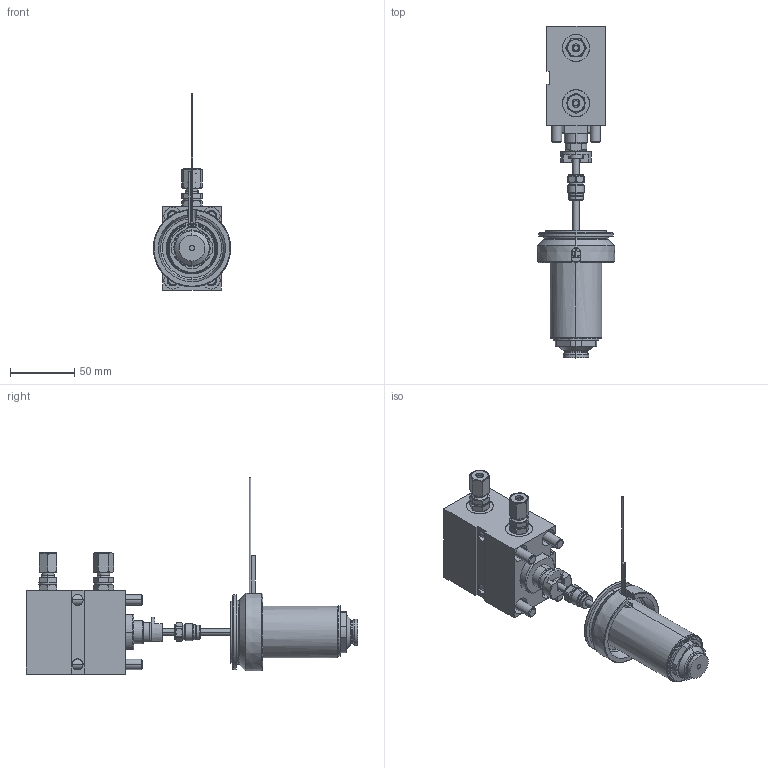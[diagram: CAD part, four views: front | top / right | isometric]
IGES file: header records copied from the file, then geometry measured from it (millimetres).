
Start section: Write IGES format                                    datakit 2008 (c)
Global section: file name: Unknown; native system: DATAKIT Converter; preprocessor: Unknown; author: Unknown; organization: Unknown; date: 950613.180003; units: millimetre
Bounding box: 59.97 x 257.5 x 152.15 mm (x, y, z)
Surface area: 137237.1 mm2 (no closed solid volume)
Topology: 0 solids, 0 shells, 799 faces, 3612 edges, 3594 vertices
Faces by surface type: revolution 516, bspline 283
